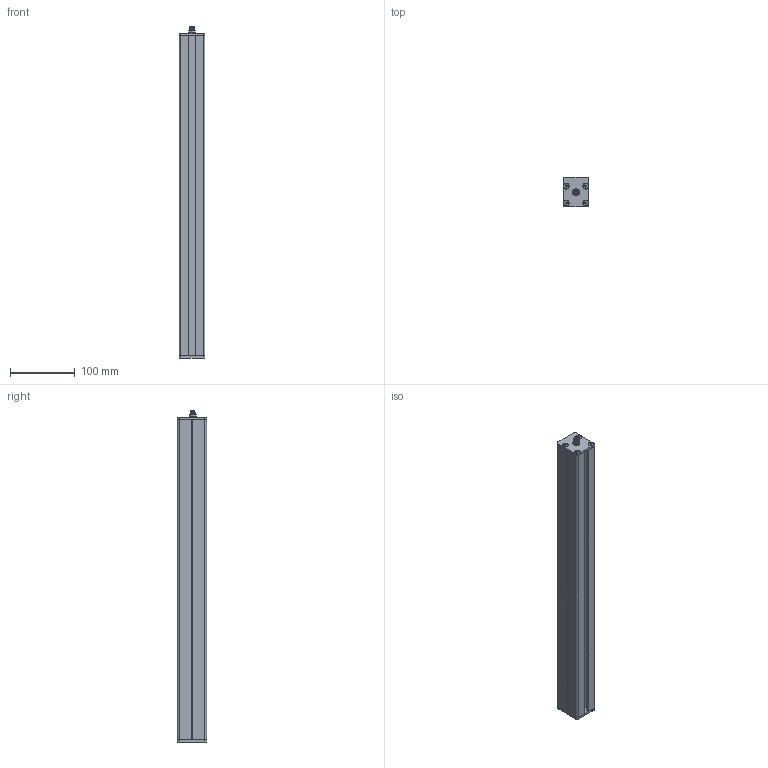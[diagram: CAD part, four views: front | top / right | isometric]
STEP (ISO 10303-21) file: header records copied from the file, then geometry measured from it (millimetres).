
FILE_DESCRIPTION (( 'STEP AP214' ), '1' );
FILE_NAME ('19070-STP01v01 - BL550_Bar light.STEP', '2019-11-05T19:10:01', ( '' ), ( '' ), 'SwSTEP 2.0', 'SolidWorks 2018', '' );
FILE_SCHEMA (( 'AUTOMOTIVE_DESIGN' ));
Length unit declared in the file: millimetre
Products named in the file (7): 19070002-PRT02v01 - Tapa final Bar light; 19039006-PRT06v01 - FL_Conector para página; 19070004-PRT03v01 - BL500_Difusor 6 mm; socket countersunk head screw_am_B18.3.5M - 4 x 0.7 x 8 Socket FCHS  -- 8N; 19070003-PRT03v01 - Tapa final conector Bar light; 19070002-PRT01v02 - BL500_Perfil U para construcción; 19070-STP01v01 - BL550_Bar light
Assembly tree (13 placements, depth 2):
  19070-STP01v01 - BL550_Bar light
    19070002-PRT01v02 - BL500_Perfil U para construcción
    19070004-PRT03v01 - BL500_Difusor 6 mm
    19070002-PRT02v01 - Tapa final Bar light
    19070003-PRT03v01 - Tapa final conector Bar light
    19039006-PRT06v01 - FL_Conector para página
    socket countersunk head screw_am_B18.3.5M - 4 x 0.7 x 8 Socket FCHS  -- 8N  x8
Bounding box: 40 x 45 x 511.44 mm (x, y, z)
Volume: 761146.8 mm3; surface area: 174172.4 mm2
Topology: 13 solids, 13 shells, 341 faces, 825 edges, 508 vertices
Faces by surface type: plane 187, cylinder 72, cone 51, torus 14, bspline 11, sphere 6
Full cylindrical faces by diameter (mm): 4 x8, 4.5 x8, 7.8 x8
Entity records: 9928 total; most frequent: CARTESIAN_POINT 4775, ORIENTED_EDGE 978, DIRECTION 941, EDGE_CURVE 489, AXIS2_PLACEMENT_3D 349, VERTEX_POINT 326, EDGE_LOOP 249, LINE 243
